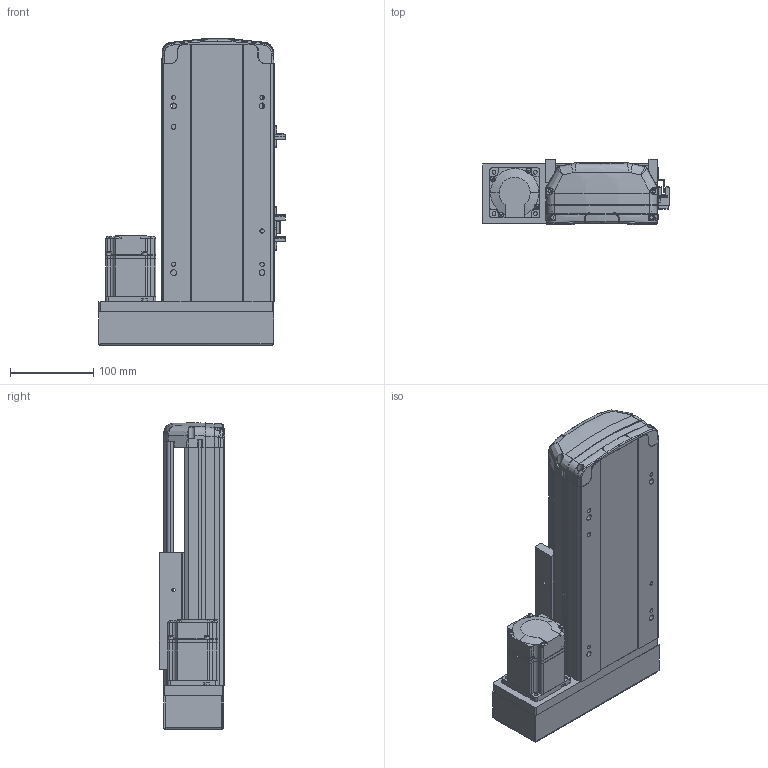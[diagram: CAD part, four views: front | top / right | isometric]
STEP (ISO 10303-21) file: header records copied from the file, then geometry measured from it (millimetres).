
FILE_DESCRIPTION (( 'STEP AP214' ), '1' );
FILE_NAME ('RTH14-XX-100-L-M20-C4.STEP', '2025-10-25T02:35:07', ( 'Microsoft' ), ( 'Microsoft' ), 'SwSTEP 2.0', 'SolidWorks 2018', '' );
FILE_SCHEMA (( 'AUTOMOTIVE_DESIGN' ));
Length unit declared in the file: millimetre
Products named in the file (10): N_RTH14-GY-001P^RTH14-XX-XX-L-M20-C4; N_OMRON EE-SX672 传感器^RTH14-XX-XX-L-M20-C4; RTH14-XX-100-L-M20-C4; N_RTH13-L-012感应片（外置）^RTH14-XX-XX-L-M20-C4; N_RTH14-M-007P奻裔^RTH14-XX-XX-L-M20-C4; N_RTH14-R-004-SFSR16賑釱^RTH14-XX-XX-L-M20-C4; N_RTH13-L-018 裔赽^RTH14-XX-XX-L-M20-C4; N_MSMD022P1AA_200W^RTH14-XX-XX-L-M20-C4; N_RTH14-M-011P菁釱^RTH14-XX-XX-L-M20-C4; N_RTH13-L-008-P20 萇儂啣酘蛌殏^RTH14-XX-XX-L-M20-C4
Assembly tree (11 placements, depth 2):
  RTH14-XX-100-L-M20-C4
    N_RTH14-M-011P菁釱^RTH14-XX-XX-L-M20-C4
    N_RTH14-M-007P奻裔^RTH14-XX-XX-L-M20-C4
    N_MSMD022P1AA_200W^RTH14-XX-XX-L-M20-C4
    N_RTH13-L-008-P20 萇儂啣酘蛌殏^RTH14-XX-XX-L-M20-C4
    N_RTH13-L-018 裔赽^RTH14-XX-XX-L-M20-C4
    N_RTH13-L-012感应片（外置）^RTH14-XX-XX-L-M20-C4
    N_OMRON EE-SX672 传感器^RTH14-XX-XX-L-M20-C4  x3
    N_RTH14-GY-001P^RTH14-XX-XX-L-M20-C4
    N_RTH14-R-004-SFSR16賑釱^RTH14-XX-XX-L-M20-C4
Bounding box: 224 x 78.03 x 367.49 mm (x, y, z)
Volume: 2078248.1 mm3; surface area: 507934 mm2
Topology: 11 solids, 11 shells, 1826 faces, 5093 edges, 3334 vertices
Faces by surface type: plane 983, cylinder 449, bspline 345, cone 45, torus 4
Entity records: 55331 total; most frequent: CARTESIAN_POINT 22595, ORIENTED_EDGE 7254, DIRECTION 5736, EDGE_CURVE 3627, VERTEX_POINT 2370, VECTOR 2112, LINE 2112, AXIS2_PLACEMENT_3D 1812
